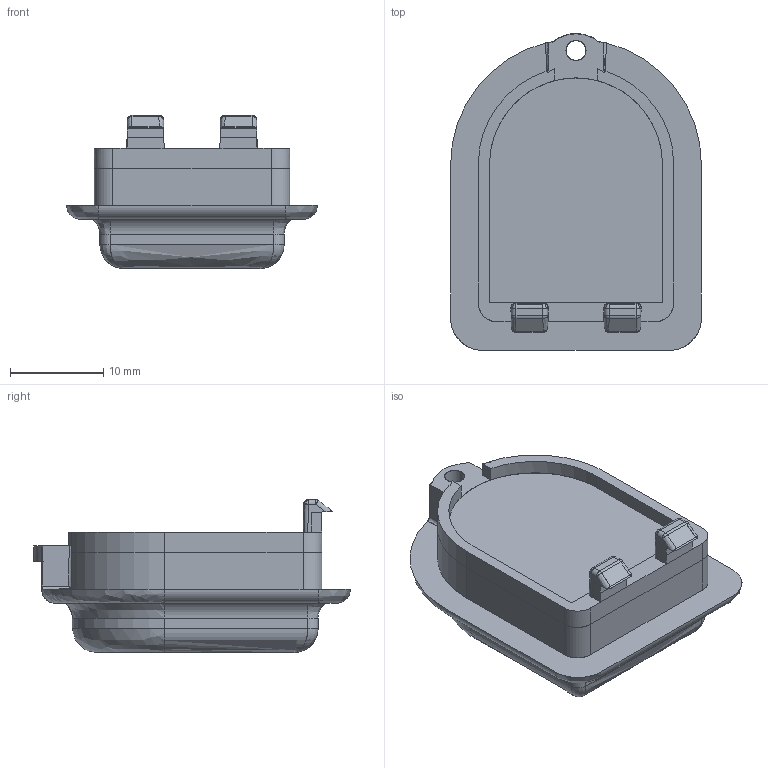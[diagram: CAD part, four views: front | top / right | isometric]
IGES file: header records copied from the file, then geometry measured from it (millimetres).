
Start section: SolidWorks IGES file using analytic representation for surfaces
Global section: file name: Z:\Desktop\DigitSensor\813Deisgn\Dot\Cylinder1_outer0.6_inner5.2.IGS; native system: SolidWorks 2023; preprocessor: SolidWorks 2023; author: qingzheng; date: 240813.145100; units: millimetre
Bounding box: 26.95 x 34.04 x 16.45 mm (x, y, z)
Surface area: 6992.4 mm2 (no closed solid volume)
Topology: 0 solids, 0 shells, 505 faces, 5155 edges, 5146 vertices
Faces by surface type: revolution 257, bspline 248
